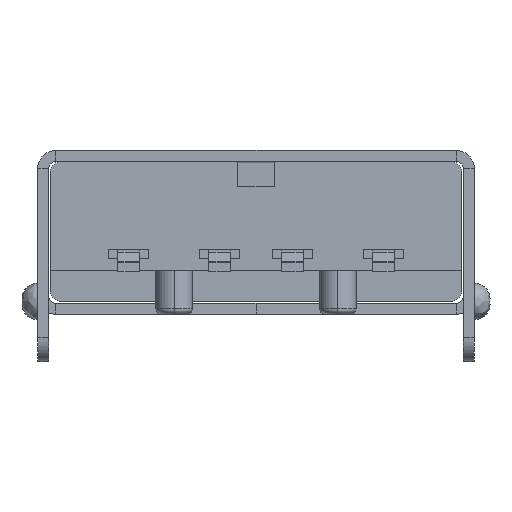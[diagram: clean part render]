
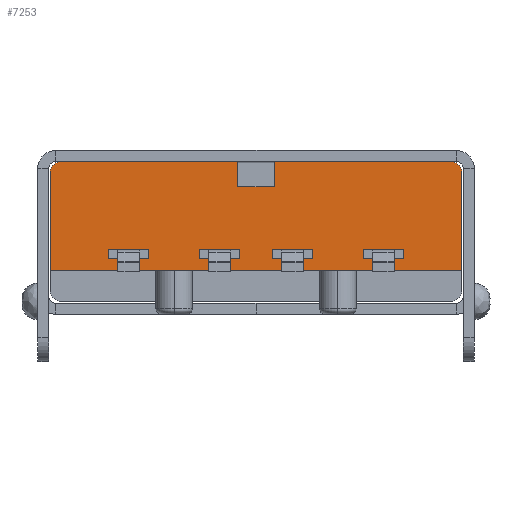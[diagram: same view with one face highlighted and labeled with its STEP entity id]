
A CAD part, front view. The second image highlights one B-rep face of the part: STEP entity #7253.
In plain terms, the highlighted planar face has unit normal (0, -1, 0).
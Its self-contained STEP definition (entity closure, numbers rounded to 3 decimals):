
#5186=DIRECTION('',(1.,0.,0.));
#5187=VECTOR('',#5186,1.11);
#5188=CARTESIAN_POINT('',(0.445,-9.4,0.505));
#5189=LINE('',#5188,#5187);
#5190=DIRECTION('',(0.,0.,1.));
#5191=VECTOR('',#5190,0.25);
#5192=CARTESIAN_POINT('',(1.555,-9.4,0.505));
#5193=LINE('',#5192,#5191);
#5194=DIRECTION('',(-1.,0.,0.));
#5195=VECTOR('',#5194,1.11);
#5196=CARTESIAN_POINT('',(1.555,-9.4,0.755));
#5197=LINE('',#5196,#5195);
#5198=DIRECTION('',(0.,0.,-1.));
#5199=VECTOR('',#5198,0.25);
#5200=CARTESIAN_POINT('',(0.445,-9.4,0.755));
#5201=LINE('',#5200,#5199);
#5202=DIRECTION('',(0.,0.,1.));
#5203=VECTOR('',#5202,0.25);
#5204=CARTESIAN_POINT('',(4.055,-9.4,0.505));
#5205=LINE('',#5204,#5203);
#5206=DIRECTION('',(-1.,0.,0.));
#5207=VECTOR('',#5206,1.11);
#5208=CARTESIAN_POINT('',(4.055,-9.4,0.755));
#5209=LINE('',#5208,#5207);
#5210=DIRECTION('',(0.,0.,-1.));
#5211=VECTOR('',#5210,0.25);
#5212=CARTESIAN_POINT('',(2.945,-9.4,0.755));
#5213=LINE('',#5212,#5211);
#5214=DIRECTION('',(1.,0.,0.));
#5215=VECTOR('',#5214,1.11);
#5216=CARTESIAN_POINT('',(2.945,-9.4,0.505));
#5217=LINE('',#5216,#5215);
#5218=DIRECTION('',(0.,0.,1.));
#5219=VECTOR('',#5218,0.25);
#5220=CARTESIAN_POINT('',(-0.445,-9.4,0.505));
#5221=LINE('',#5220,#5219);
#5222=DIRECTION('',(-1.,0.,0.));
#5223=VECTOR('',#5222,1.11);
#5224=CARTESIAN_POINT('',(-0.445,-9.4,0.755));
#5225=LINE('',#5224,#5223);
#5226=DIRECTION('',(0.,0.,-1.));
#5227=VECTOR('',#5226,0.25);
#5228=CARTESIAN_POINT('',(-1.555,-9.4,0.755));
#5229=LINE('',#5228,#5227);
#5230=DIRECTION('',(1.,0.,0.));
#5231=VECTOR('',#5230,1.11);
#5232=CARTESIAN_POINT('',(-1.555,-9.4,0.505));
#5233=LINE('',#5232,#5231);
#5234=DIRECTION('',(1.,0.,0.));
#5235=VECTOR('',#5234,1.11);
#5236=CARTESIAN_POINT('',(-4.055,-9.4,0.505));
#5237=LINE('',#5236,#5235);
#5238=DIRECTION('',(0.,0.,1.));
#5239=VECTOR('',#5238,0.25);
#5240=CARTESIAN_POINT('',(-2.945,-9.4,0.505));
#5241=LINE('',#5240,#5239);
#5242=DIRECTION('',(-1.,0.,0.));
#5243=VECTOR('',#5242,1.11);
#5244=CARTESIAN_POINT('',(-2.945,-9.4,0.755));
#5245=LINE('',#5244,#5243);
#5246=DIRECTION('',(0.,0.,-1.));
#5247=VECTOR('',#5246,0.25);
#5248=CARTESIAN_POINT('',(-4.055,-9.4,0.755));
#5249=LINE('',#5248,#5247);
#5250=CARTESIAN_POINT('',(-5.34,-9.4,-1.605));
#5251=DIRECTION('',(0.,-1.,0.));
#5252=DIRECTION('',(-1.,0.,0.));
#5253=AXIS2_PLACEMENT_3D('',#5250,#5251,#5252);
#5255=DIRECTION('',(0.,0.,1.));
#5256=VECTOR('',#5255,2.68);
#5257=CARTESIAN_POINT('',(-5.66,-9.4,-1.605));
#5258=LINE('',#5257,#5256);
#5259=DIRECTION('',(1.,0.,0.));
#5260=VECTOR('',#5259,11.32);
#5261=CARTESIAN_POINT('',(-5.66,-9.4,1.075));
#5262=LINE('',#5261,#5260);
#5263=DIRECTION('',(0.,0.,-1.));
#5264=VECTOR('',#5263,2.68);
#5265=CARTESIAN_POINT('',(5.66,-9.4,1.075));
#5266=LINE('',#5265,#5264);
#5267=CARTESIAN_POINT('',(5.34,-9.4,-1.605));
#5268=DIRECTION('',(0.,-1.,0.));
#5269=DIRECTION('',(0.,0.,-1.));
#5270=AXIS2_PLACEMENT_3D('',#5267,#5268,#5269);
#5272=DIRECTION('',(-1.,0.,0.));
#5273=VECTOR('',#5272,4.84);
#5274=CARTESIAN_POINT('',(5.34,-9.4,-1.925));
#5275=LINE('',#5274,#5273);
#5276=DIRECTION('',(0.,0.,1.));
#5277=VECTOR('',#5276,0.7);
#5278=CARTESIAN_POINT('',(0.5,-9.4,-1.925));
#5279=LINE('',#5278,#5277);
#5280=DIRECTION('',(1.,0.,0.));
#5281=VECTOR('',#5280,1.);
#5282=CARTESIAN_POINT('',(-0.5,-9.4,-1.225));
#5283=LINE('',#5282,#5281);
#5284=DIRECTION('',(0.,0.,1.));
#5285=VECTOR('',#5284,0.7);
#5286=CARTESIAN_POINT('',(-0.5,-9.4,-1.925));
#5287=LINE('',#5286,#5285);
#5288=DIRECTION('',(-1.,0.,0.));
#5289=VECTOR('',#5288,4.84);
#5290=CARTESIAN_POINT('',(-0.5,-9.4,-1.925));
#5291=LINE('',#5290,#5289);
#6754=CARTESIAN_POINT('',(-5.66,-9.4,1.075));
#6755=CARTESIAN_POINT('',(5.66,-9.4,1.075));
#6756=VERTEX_POINT('',#6754);
#6757=VERTEX_POINT('',#6755);
#6866=CARTESIAN_POINT('',(0.445,-9.4,0.505));
#6867=CARTESIAN_POINT('',(1.555,-9.4,0.505));
#6868=VERTEX_POINT('',#6866);
#6869=VERTEX_POINT('',#6867);
#6870=CARTESIAN_POINT('',(1.555,-9.4,0.755));
#6871=VERTEX_POINT('',#6870);
#6872=CARTESIAN_POINT('',(0.445,-9.4,0.755));
#6873=VERTEX_POINT('',#6872);
#6874=CARTESIAN_POINT('',(4.055,-9.4,0.505));
#6875=CARTESIAN_POINT('',(4.055,-9.4,0.755));
#6876=VERTEX_POINT('',#6874);
#6877=VERTEX_POINT('',#6875);
#6878=CARTESIAN_POINT('',(2.945,-9.4,0.755));
#6879=VERTEX_POINT('',#6878);
#6880=CARTESIAN_POINT('',(2.945,-9.4,0.505));
#6881=VERTEX_POINT('',#6880);
#6882=CARTESIAN_POINT('',(-0.445,-9.4,0.505));
#6883=CARTESIAN_POINT('',(-0.445,-9.4,0.755));
#6884=VERTEX_POINT('',#6882);
#6885=VERTEX_POINT('',#6883);
#6886=CARTESIAN_POINT('',(-1.555,-9.4,0.755));
#6887=VERTEX_POINT('',#6886);
#6888=CARTESIAN_POINT('',(-1.555,-9.4,0.505));
#6889=VERTEX_POINT('',#6888);
#6890=CARTESIAN_POINT('',(-4.055,-9.4,0.505));
#6891=CARTESIAN_POINT('',(-2.945,-9.4,0.505));
#6892=VERTEX_POINT('',#6890);
#6893=VERTEX_POINT('',#6891);
#6894=CARTESIAN_POINT('',(-2.945,-9.4,0.755));
#6895=VERTEX_POINT('',#6894);
#6896=CARTESIAN_POINT('',(-4.055,-9.4,0.755));
#6897=VERTEX_POINT('',#6896);
#6962=CARTESIAN_POINT('',(-5.66,-9.4,-1.605));
#6963=CARTESIAN_POINT('',(-5.34,-9.4,-1.925));
#6964=VERTEX_POINT('',#6962);
#6965=VERTEX_POINT('',#6963);
#6970=CARTESIAN_POINT('',(5.34,-9.4,-1.925));
#6971=CARTESIAN_POINT('',(5.66,-9.4,-1.605));
#6972=VERTEX_POINT('',#6970);
#6973=VERTEX_POINT('',#6971);
#7034=CARTESIAN_POINT('',(-0.5,-9.4,-1.225));
#7035=CARTESIAN_POINT('',(0.5,-9.4,-1.225));
#7036=VERTEX_POINT('',#7034);
#7037=VERTEX_POINT('',#7035);
#7038=CARTESIAN_POINT('',(-0.5,-9.4,-1.925));
#7039=VERTEX_POINT('',#7038);
#7040=CARTESIAN_POINT('',(0.5,-9.4,-1.925));
#7041=VERTEX_POINT('',#7040);
#7186=CARTESIAN_POINT('',(0.,-9.4,0.));
#7187=DIRECTION('',(0.,1.,0.));
#7188=DIRECTION('',(1.,0.,0.));
#7189=AXIS2_PLACEMENT_3D('',#7186,#7187,#7188);
#7190=PLANE('',#7189);
#7192=ORIENTED_EDGE('',*,*,#7191,.F.);
#7194=ORIENTED_EDGE('',*,*,#7193,.T.);
#7196=ORIENTED_EDGE('',*,*,#7195,.T.);
#7198=ORIENTED_EDGE('',*,*,#7197,.T.);
#7200=ORIENTED_EDGE('',*,*,#7199,.F.);
#7202=ORIENTED_EDGE('',*,*,#7201,.T.);
#7204=ORIENTED_EDGE('',*,*,#7203,.T.);
#7206=ORIENTED_EDGE('',*,*,#7205,.F.);
#7208=ORIENTED_EDGE('',*,*,#7207,.F.);
#7210=ORIENTED_EDGE('',*,*,#7209,.T.);
#7211=EDGE_LOOP('',(#7192,#7194,#7196,#7198,#7200,#7202,#7204,#7206,#7208,
#7210));
#7212=FACE_OUTER_BOUND('',#7211,.F.);
#7214=ORIENTED_EDGE('',*,*,#7213,.T.);
#7216=ORIENTED_EDGE('',*,*,#7215,.T.);
#7218=ORIENTED_EDGE('',*,*,#7217,.T.);
#7220=ORIENTED_EDGE('',*,*,#7219,.T.);
#7221=EDGE_LOOP('',(#7214,#7216,#7218,#7220));
#7222=FACE_BOUND('',#7221,.F.);
#7224=ORIENTED_EDGE('',*,*,#7223,.T.);
#7226=ORIENTED_EDGE('',*,*,#7225,.T.);
#7228=ORIENTED_EDGE('',*,*,#7227,.T.);
#7230=ORIENTED_EDGE('',*,*,#7229,.T.);
#7231=EDGE_LOOP('',(#7224,#7226,#7228,#7230));
#7232=FACE_BOUND('',#7231,.F.);
#7234=ORIENTED_EDGE('',*,*,#7233,.T.);
#7236=ORIENTED_EDGE('',*,*,#7235,.T.);
#7238=ORIENTED_EDGE('',*,*,#7237,.T.);
#7240=ORIENTED_EDGE('',*,*,#7239,.T.);
#7241=EDGE_LOOP('',(#7234,#7236,#7238,#7240));
#7242=FACE_BOUND('',#7241,.F.);
#7244=ORIENTED_EDGE('',*,*,#7243,.T.);
#7246=ORIENTED_EDGE('',*,*,#7245,.T.);
#7248=ORIENTED_EDGE('',*,*,#7247,.T.);
#7250=ORIENTED_EDGE('',*,*,#7249,.T.);
#7251=EDGE_LOOP('',(#7244,#7246,#7248,#7250));
#7252=FACE_BOUND('',#7251,.F.);
#7253=ADVANCED_FACE('',(#7212,#7222,#7232,#7242,#7252),#7190,.F.);
#5254=CIRCLE('',#5253,0.32);
#5271=CIRCLE('',#5270,0.32);
#7191=EDGE_CURVE('',#6964,#6965,#5254,.T.);
#7193=EDGE_CURVE('',#6964,#6756,#5258,.T.);
#7195=EDGE_CURVE('',#6756,#6757,#5262,.T.);
#7197=EDGE_CURVE('',#6757,#6973,#5266,.T.);
#7199=EDGE_CURVE('',#6972,#6973,#5271,.T.);
#7201=EDGE_CURVE('',#6972,#7041,#5275,.T.);
#7203=EDGE_CURVE('',#7041,#7037,#5279,.T.);
#7205=EDGE_CURVE('',#7036,#7037,#5283,.T.);
#7207=EDGE_CURVE('',#7039,#7036,#5287,.T.);
#7209=EDGE_CURVE('',#7039,#6965,#5291,.T.);
#7213=EDGE_CURVE('',#6876,#6877,#5205,.T.);
#7215=EDGE_CURVE('',#6877,#6879,#5209,.T.);
#7217=EDGE_CURVE('',#6879,#6881,#5213,.T.);
#7219=EDGE_CURVE('',#6881,#6876,#5217,.T.);
#7223=EDGE_CURVE('',#6884,#6885,#5221,.T.);
#7225=EDGE_CURVE('',#6885,#6887,#5225,.T.);
#7227=EDGE_CURVE('',#6887,#6889,#5229,.T.);
#7229=EDGE_CURVE('',#6889,#6884,#5233,.T.);
#7233=EDGE_CURVE('',#6892,#6893,#5237,.T.);
#7235=EDGE_CURVE('',#6893,#6895,#5241,.T.);
#7237=EDGE_CURVE('',#6895,#6897,#5245,.T.);
#7239=EDGE_CURVE('',#6897,#6892,#5249,.T.);
#7243=EDGE_CURVE('',#6868,#6869,#5189,.T.);
#7245=EDGE_CURVE('',#6869,#6871,#5193,.T.);
#7247=EDGE_CURVE('',#6871,#6873,#5197,.T.);
#7249=EDGE_CURVE('',#6873,#6868,#5201,.T.);
